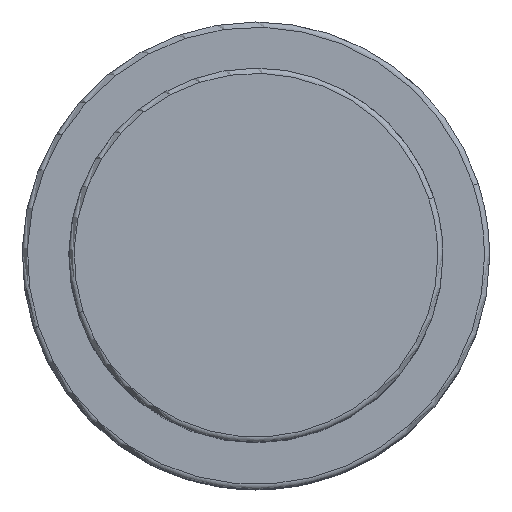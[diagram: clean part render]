
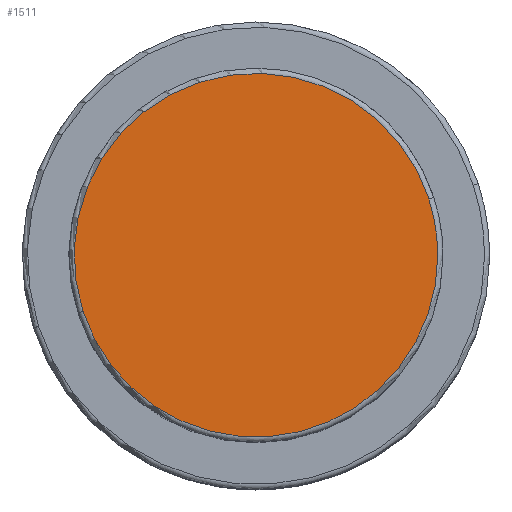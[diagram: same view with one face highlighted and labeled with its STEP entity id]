
A CAD part, top view. The second image highlights one B-rep face of the part: STEP entity #1511.
In plain terms, the highlighted planar face has unit normal (0, 0, 1).
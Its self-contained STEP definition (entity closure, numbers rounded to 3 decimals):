
#1444=CARTESIAN_POINT('',(16.643,5.408,58.0));
#1445=VERTEX_POINT('',#1444);
#1463=CARTESIAN_POINT('',(-16.643,-5.408,58.0));
#1464=VERTEX_POINT('',#1463);
#1472=CARTESIAN_POINT('',(0.0,0.0,58.0));
#1473=DIRECTION('',(0.0,0.0,1.0));
#1474=DIRECTION('',(1.0,0.0,0.0));
#1475=AXIS2_PLACEMENT_3D('',#1472,#1473,#1474);
#1476=CIRCLE('',#1475,17.5);
#1477=EDGE_CURVE('no 1644',#1445,#1464,#1476,.T.);
#1487=CARTESIAN_POINT('',(17.5,0.0,58.0));
#1488=VERTEX_POINT('',#1487);
#1489=CARTESIAN_POINT('',(0.0,0.0,58.0));
#1490=DIRECTION('',(0.0,0.0,1.0));
#1491=DIRECTION('',(1.0,0.0,0.0));
#1492=AXIS2_PLACEMENT_3D('',#1489,#1490,#1491);
#1493=CIRCLE('',#1492,17.5);
#1494=EDGE_CURVE('no 1653',#1488,#1445,#1493,.T.);
#1495=ORIENTED_EDGE('',*,*,#1494,.T.);
#1496=ORIENTED_EDGE('',*,*,#1477,.T.);
#1497=CARTESIAN_POINT('',(0.0,0.0,58.0));
#1498=DIRECTION('',(0.0,0.0,1.0));
#1499=DIRECTION('',(1.0,0.0,0.0));
#1500=AXIS2_PLACEMENT_3D('',#1497,#1498,#1499);
#1501=CIRCLE('',#1500,17.5);
#1502=EDGE_CURVE('no 1659',#1464,#1488,#1501,.T.);
#1503=ORIENTED_EDGE('',*,*,#1502,.T.);
#1504=EDGE_LOOP('',(#1495,#1496,#1503));
#1505=FACE_OUTER_BOUND('',#1504,.T.);
#1506=CARTESIAN_POINT('',(0.0,0.0,58.0));
#1507=DIRECTION('',(0.0,0.0,1.0));
#1508=DIRECTION('',(1.0,0.0,0.0));
#1509=AXIS2_PLACEMENT_3D('',#1506,#1507,#1508);
#1510=PLANE('',#1509);
#1511=ADVANCED_FACE('no 1646',(#1505),#1510,.T.);
